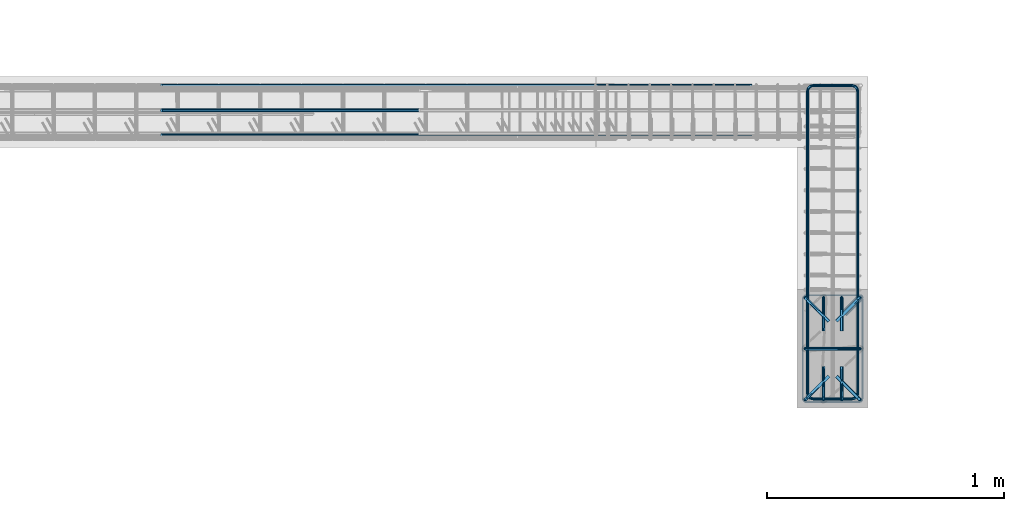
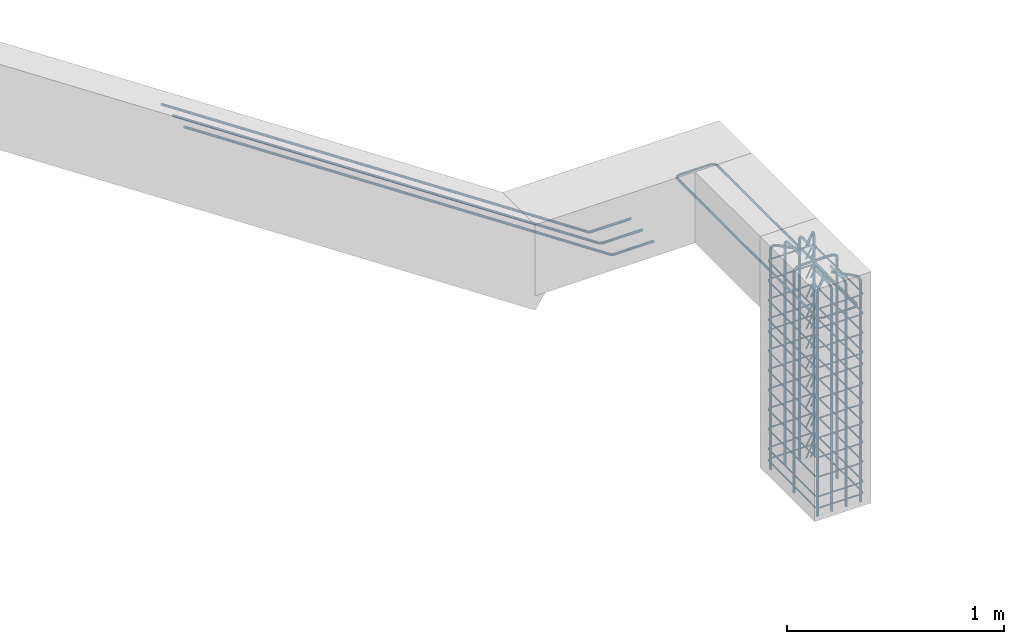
# One storey, part 17 of 24: 4 reinforcing bars.
"""IFC2X3 building model written with IfcOpenShell, lengths in metres."""

from ifc_helpers import new_model, entity, si_unit, direction, frame, origin, place, context, subcontext, project, spatial, shape, source, transform, mapped, element, save


model = new_model("IFC2X3")

# Units and contexts
model_context = context("Model", 3, precision=0.0, world=origin(), true_north=direction((0.0, 1.0)))
plan_context = context("Plan", 3, precision=0.0, world=origin(), true_north=direction((0.0, 1.0)))
body_context = subcontext(model_context, "Body", "Model", "MODEL_VIEW", scale=1.0)
ifc_project = project(units=[si_unit("LENGTHUNIT", "METRE"), si_unit("AREAUNIT", "SQUARE_METRE"), si_unit("VOLUMEUNIT", "CUBIC_METRE"), si_unit("PLANEANGLEUNIT", "RADIAN"), si_unit("THERMODYNAMICTEMPERATUREUNIT", "DEGREE_CELSIUS"), si_unit("FORCEUNIT", "NEWTON"), si_unit("MASSUNIT", "GRAM", prefix="KILO")], contexts=[model_context, plan_context])

# Site, building, storey
placement = place(None, origin())
site = spatial("IfcSite", under=ifc_project, at=placement, Name="Default Site", CompositionType="ELEMENT")
building = spatial("IfcBuilding", under=site, at=placement, Name="Default Building", CompositionType="ELEMENT")
storey_placement = place(placement, frame((0.0, 0.0, 3.3), z_axis=(1.0, 0.0, 0.0), x_axis=(0.0, 0.0, 1.0)))
storey = spatial("IfcBuildingStorey", under=building, at=storey_placement, Name="Piano 2", CompositionType="ELEMENT", Elevation=3.3)

# Reinforcing bars
shared_shape_1 = source(origin(), body_context, None, "AdvancedSweptSolid", [
    entity("IfcSweptDiskSolid", entity("IfcCompositeCurve", [entity("IfcCompositeCurveSegment", "CONTINUOUS", True, entity("IfcPolyline", [entity("IfcCartesianPoint", [0.0, 0.0, 0.0]), entity("IfcCartesianPoint", [0.320339, 0.0, -0.21356]), entity("IfcCartesianPoint", [1.81803, 0.0, -1.21202]), entity("IfcCartesianPoint", [2.266976, 0.0, -1.511317]), entity("IfcCartesianPoint", [2.282508, 0.0, -1.51602]), entity("IfcCartesianPoint", [2.495986, 0.0, -1.51602])]))], False), 0.007, 0.0, 0.0),
])
shared_shape_2 = source(origin(), body_context, None, "MappedRepresentation", [mapped(shared_shape_1, transform((14.164462, 4.902, 2.461196)))])
shared_shape_3 = source(origin(), body_context, None, "AdvancedSweptSolid", [
    entity("IfcSweptDiskSolid", entity("IfcCompositeCurve", [entity("IfcCompositeCurveSegment", "CONTINUOUS", True, entity("IfcPolyline", [entity("IfcCartesianPoint", [0.0, 0.0, 0.0]), entity("IfcCartesianPoint", [0.320339, 0.0, -0.21356]), entity("IfcCartesianPoint", [1.81803, 0.0, -1.21202]), entity("IfcCartesianPoint", [2.266976, 0.0, -1.511317]), entity("IfcCartesianPoint", [2.282508, 0.0, -1.51602]), entity("IfcCartesianPoint", [2.495986, 0.0, -1.51602])]))], False), 0.007, 0.0, 0.0),
])
shared_shape_4 = source(origin(), body_context, None, "MappedRepresentation", [mapped(shared_shape_3, transform((14.164462, 5.007, 2.461196)))])
shared_shape_5 = source(origin(), body_context, None, "AdvancedSweptSolid", [
    entity("IfcSweptDiskSolid", entity("IfcCompositeCurve", [entity("IfcCompositeCurveSegment", "CONTINUOUS", True, entity("IfcPolyline", [entity("IfcCartesianPoint", [0.0, 0.0, 0.0]), entity("IfcCartesianPoint", [0.320339, 0.0, -0.21356]), entity("IfcCartesianPoint", [1.81803, 0.0, -1.21202]), entity("IfcCartesianPoint", [2.266976, 0.0, -1.511317]), entity("IfcCartesianPoint", [2.282508, 0.0, -1.51602]), entity("IfcCartesianPoint", [2.495986, 0.0, -1.51602])]))], False), 0.007, 0.0, 0.0),
])
shared_shape_6 = source(origin(), body_context, None, "MappedRepresentation", [mapped(shared_shape_5, transform((14.164462, 5.112, 2.461196)))])
element("IfcReinforcingBar", 1, at=placement, inside=storey, Name="Arm Superiore; Trave:10 [Piano:2]", BarLength=8.864272, BarRole="MAIN", BarSurface="TEXTURED", NominalDiameter=0.014, shapes=[
    shape(body_context, None, "MappedRepresentation", [mapped(shared_shape_2, transform((0.0, 0.0, 0.0))), mapped(shared_shape_4, transform((0.0, 0.0, 0.0))), mapped(shared_shape_6, transform((0.0, 0.0, 0.0)))]),
])
shared_shape_7 = source(origin(), body_context, None, "AdvancedSweptSolid", [
    entity("IfcSweptDiskSolid", entity("IfcCompositeCurve", [entity("IfcCompositeCurveSegment", "CONTINUOUS", True, entity("IfcPolyline", [entity("IfcCartesianPoint", [0.0, 0.0, 0.0]), entity("IfcCartesianPoint", [-0.096, 0.0, 0.0]), entity("IfcCartesianPoint", [-0.108, 0.003215, 0.0]), entity("IfcCartesianPoint", [-0.116785, 0.012, 0.0]), entity("IfcCartesianPoint", [-0.12, 0.024, 0.0]), entity("IfcCartesianPoint", [-0.12, 0.212, 0.0]), entity("IfcCartesianPoint", [-0.12, 1.212, 0.0]), entity("IfcCartesianPoint", [-0.12, 1.3, 0.0]), entity("IfcCartesianPoint", [-0.116785, 1.312, 0.0]), entity("IfcCartesianPoint", [-0.108, 1.320785, 0.0]), entity("IfcCartesianPoint", [-0.096, 1.324, 0.0]), entity("IfcCartesianPoint", [0.0, 1.324, 0.0])]))], False), 0.006, 0.0, 0.0),
])
shared_shape_8 = source(origin(), body_context, None, "MappedRepresentation", [mapped(shared_shape_7, transform((17.014, 3.788, 1.101)))])
shared_shape_9 = source(origin(), body_context, None, "AdvancedSweptSolid", [
    entity("IfcSweptDiskSolid", entity("IfcCompositeCurve", [entity("IfcCompositeCurveSegment", "CONTINUOUS", True, entity("IfcPolyline", [entity("IfcCartesianPoint", [0.0, 0.0, 0.0]), entity("IfcCartesianPoint", [0.096, 0.0, 0.0]), entity("IfcCartesianPoint", [0.108, 0.003215, 0.0]), entity("IfcCartesianPoint", [0.116785, 0.012, 0.0]), entity("IfcCartesianPoint", [0.12, 0.024, 0.0]), entity("IfcCartesianPoint", [0.12, 0.212, 0.0]), entity("IfcCartesianPoint", [0.12, 1.212, 0.0]), entity("IfcCartesianPoint", [0.12, 1.3, 0.0]), entity("IfcCartesianPoint", [0.116785, 1.312, 0.0]), entity("IfcCartesianPoint", [0.108, 1.320785, 0.0]), entity("IfcCartesianPoint", [0.096, 1.324, 0.0]), entity("IfcCartesianPoint", [0.0, 1.324, 0.0])]))], False), 0.006, 0.0, 0.0),
])
shared_shape_10 = source(origin(), body_context, None, "MappedRepresentation", [mapped(shared_shape_9, transform((16.986, 3.788, 1.101)))])
element("IfcReinforcingBar", 2, at=placement, inside=storey, Name="Arm Generica; Trave:12 [Piano:2]", BarLength=3.08508, BarRole="NOTDEFINED", BarSurface="TEXTURED", NominalDiameter=0.012, shapes=[
    shape(body_context, None, "MappedRepresentation", [mapped(shared_shape_8, transform((0.0, 0.0, 0.0))), mapped(shared_shape_10, transform((0.0, 0.0, 0.0)))]),
])
shared_shape_11 = source(origin(), body_context, None, "AdvancedSweptSolid", [
    entity("IfcSweptDiskSolid", entity("IfcCompositeCurve", [entity("IfcCompositeCurveSegment", "CONTINUOUS", True, entity("IfcPolyline", [entity("IfcCartesianPoint", [0.0, 0.0, 0.0]), entity("IfcCartesianPoint", [0.066025, 0.066025, -0.000531]), entity("IfcCartesianPoint", [0.070711, 0.077338, -0.000606]), entity("IfcCartesianPoint", [0.069514, 0.081802, -0.000638]), entity("IfcCartesianPoint", [0.066246, 0.085071, -0.000675]), entity("IfcCartesianPoint", [0.061782, 0.086267, -0.000707]), entity("IfcCartesianPoint", [-0.16529, 0.086267, -0.001997]), entity("IfcCartesianPoint", [-0.17329, 0.084124, -0.002055]), entity("IfcCartesianPoint", [-0.179146, 0.078267, -0.002122]), entity("IfcCartesianPoint", [-0.181289, 0.070268, -0.002179]), entity("IfcCartesianPoint", [-0.181289, -0.349734, -0.004566]), entity("IfcCartesianPoint", [-0.179146, -0.357733, -0.004623]), entity("IfcCartesianPoint", [-0.17329, -0.363589, -0.00469]), entity("IfcCartesianPoint", [-0.16529, -0.365733, -0.004747]), entity("IfcCartesianPoint", [0.054711, -0.365733, -0.005997]), entity("IfcCartesianPoint", [0.062711, -0.363589, -0.006055]), entity("IfcCartesianPoint", [0.068567, -0.357733, -0.006122]), entity("IfcCartesianPoint", [0.070711, -0.349734, -0.006179]), entity("IfcCartesianPoint", [0.070711, 0.070711, -0.008568]), entity("IfcCartesianPoint", [0.068627, 0.078489, -0.008624]), entity("IfcCartesianPoint", [0.062933, 0.084183, -0.008689]), entity("IfcCartesianPoint", [0.055154, 0.086267, -0.008745]), entity("IfcCartesianPoint", [-0.015556, 0.015556, -0.009313])]))], False), 0.004, 0.0, 0.0),
])
shared_shape_12 = source(origin(), body_context, None, "AdvancedSweptSolid", [
    entity("IfcSweptDiskSolid", entity("IfcCompositeCurve", [entity("IfcCompositeCurveSegment", "CONTINUOUS", True, entity("IfcPolyline", [entity("IfcCartesianPoint", [0.0, 0.0, 0.0]), entity("IfcCartesianPoint", [0.066025, 0.066025, -0.000531]), entity("IfcCartesianPoint", [0.070711, 0.077338, -0.000606]), entity("IfcCartesianPoint", [0.069514, 0.081802, -0.000638]), entity("IfcCartesianPoint", [0.066246, 0.085071, -0.000675]), entity("IfcCartesianPoint", [0.061782, 0.086267, -0.000707]), entity("IfcCartesianPoint", [-0.16529, 0.086267, -0.001997]), entity("IfcCartesianPoint", [-0.17329, 0.084124, -0.002055]), entity("IfcCartesianPoint", [-0.179146, 0.078267, -0.002122]), entity("IfcCartesianPoint", [-0.181289, 0.070268, -0.002179]), entity("IfcCartesianPoint", [-0.181289, -0.349734, -0.004566]), entity("IfcCartesianPoint", [-0.179146, -0.357733, -0.004623]), entity("IfcCartesianPoint", [-0.17329, -0.363589, -0.00469]), entity("IfcCartesianPoint", [-0.16529, -0.365733, -0.004747]), entity("IfcCartesianPoint", [0.054711, -0.365733, -0.005997]), entity("IfcCartesianPoint", [0.062711, -0.363589, -0.006055]), entity("IfcCartesianPoint", [0.068567, -0.357733, -0.006122]), entity("IfcCartesianPoint", [0.070711, -0.349734, -0.006179]), entity("IfcCartesianPoint", [0.070711, 0.070711, -0.008568]), entity("IfcCartesianPoint", [0.068627, 0.078489, -0.008624]), entity("IfcCartesianPoint", [0.062933, 0.084183, -0.008689]), entity("IfcCartesianPoint", [0.055154, 0.086267, -0.008745]), entity("IfcCartesianPoint", [-0.015556, 0.015556, -0.009313])]))], False), 0.004, 0.0, 0.0),
])
shared_shape_13 = source(origin(), body_context, None, "AdvancedSweptSolid", [
    entity("IfcSweptDiskSolid", entity("IfcCompositeCurve", [entity("IfcCompositeCurveSegment", "CONTINUOUS", True, entity("IfcPolyline", [entity("IfcCartesianPoint", [0.0, 0.0, 0.0]), entity("IfcCartesianPoint", [0.066025, 0.066025, -0.000531]), entity("IfcCartesianPoint", [0.070711, 0.077338, -0.000606]), entity("IfcCartesianPoint", [0.069514, 0.081802, -0.000638]), entity("IfcCartesianPoint", [0.066246, 0.085071, -0.000675]), entity("IfcCartesianPoint", [0.061782, 0.086267, -0.000707]), entity("IfcCartesianPoint", [-0.16529, 0.086267, -0.001997]), entity("IfcCartesianPoint", [-0.17329, 0.084124, -0.002055]), entity("IfcCartesianPoint", [-0.179146, 0.078267, -0.002122]), entity("IfcCartesianPoint", [-0.181289, 0.070268, -0.002179]), entity("IfcCartesianPoint", [-0.181289, -0.349734, -0.004566]), entity("IfcCartesianPoint", [-0.179146, -0.357733, -0.004623]), entity("IfcCartesianPoint", [-0.17329, -0.363589, -0.00469]), entity("IfcCartesianPoint", [-0.16529, -0.365733, -0.004747]), entity("IfcCartesianPoint", [0.054711, -0.365733, -0.005997]), entity("IfcCartesianPoint", [0.062711, -0.363589, -0.006055]), entity("IfcCartesianPoint", [0.068567, -0.357733, -0.006122]), entity("IfcCartesianPoint", [0.070711, -0.349734, -0.006179]), entity("IfcCartesianPoint", [0.070711, 0.070711, -0.008568]), entity("IfcCartesianPoint", [0.068627, 0.078489, -0.008624]), entity("IfcCartesianPoint", [0.062933, 0.084183, -0.008689]), entity("IfcCartesianPoint", [0.055154, 0.086267, -0.008745]), entity("IfcCartesianPoint", [-0.015556, 0.015556, -0.009313])]))], False), 0.004, 0.0, 0.0),
])
shared_shape_14 = source(origin(), body_context, None, "AdvancedSweptSolid", [
    entity("IfcSweptDiskSolid", entity("IfcCompositeCurve", [entity("IfcCompositeCurveSegment", "CONTINUOUS", True, entity("IfcPolyline", [entity("IfcCartesianPoint", [0.0, 0.0, 0.0]), entity("IfcCartesianPoint", [0.066025, 0.066025, -0.000531]), entity("IfcCartesianPoint", [0.070711, 0.077338, -0.000606]), entity("IfcCartesianPoint", [0.069514, 0.081802, -0.000638]), entity("IfcCartesianPoint", [0.066246, 0.085071, -0.000675]), entity("IfcCartesianPoint", [0.061782, 0.086267, -0.000707]), entity("IfcCartesianPoint", [-0.16529, 0.086267, -0.001997]), entity("IfcCartesianPoint", [-0.17329, 0.084124, -0.002055]), entity("IfcCartesianPoint", [-0.179146, 0.078267, -0.002122]), entity("IfcCartesianPoint", [-0.181289, 0.070268, -0.002179]), entity("IfcCartesianPoint", [-0.181289, -0.349734, -0.004566]), entity("IfcCartesianPoint", [-0.179146, -0.357733, -0.004623]), entity("IfcCartesianPoint", [-0.17329, -0.363589, -0.00469]), entity("IfcCartesianPoint", [-0.16529, -0.365733, -0.004747]), entity("IfcCartesianPoint", [0.054711, -0.365733, -0.005997]), entity("IfcCartesianPoint", [0.062711, -0.363589, -0.006055]), entity("IfcCartesianPoint", [0.068567, -0.357733, -0.006122]), entity("IfcCartesianPoint", [0.070711, -0.349734, -0.006179]), entity("IfcCartesianPoint", [0.070711, 0.070711, -0.008568]), entity("IfcCartesianPoint", [0.068627, 0.078489, -0.008624]), entity("IfcCartesianPoint", [0.062933, 0.084183, -0.008689]), entity("IfcCartesianPoint", [0.055154, 0.086267, -0.008745]), entity("IfcCartesianPoint", [-0.015556, 0.015556, -0.009313])]))], False), 0.004, 0.0, 0.0),
])
shared_shape_15 = source(origin(), body_context, None, "AdvancedSweptSolid", [
    entity("IfcSweptDiskSolid", entity("IfcCompositeCurve", [entity("IfcCompositeCurveSegment", "CONTINUOUS", True, entity("IfcPolyline", [entity("IfcCartesianPoint", [0.0, 0.0, 0.0]), entity("IfcCartesianPoint", [0.066025, 0.066025, -0.000531]), entity("IfcCartesianPoint", [0.070711, 0.077338, -0.000606]), entity("IfcCartesianPoint", [0.069514, 0.081802, -0.000638]), entity("IfcCartesianPoint", [0.066246, 0.085071, -0.000675]), entity("IfcCartesianPoint", [0.061782, 0.086267, -0.000707]), entity("IfcCartesianPoint", [-0.16529, 0.086267, -0.001997]), entity("IfcCartesianPoint", [-0.17329, 0.084124, -0.002055]), entity("IfcCartesianPoint", [-0.179146, 0.078267, -0.002122]), entity("IfcCartesianPoint", [-0.181289, 0.070268, -0.002179]), entity("IfcCartesianPoint", [-0.181289, -0.349734, -0.004566]), entity("IfcCartesianPoint", [-0.179146, -0.357733, -0.004623]), entity("IfcCartesianPoint", [-0.17329, -0.363589, -0.00469]), entity("IfcCartesianPoint", [-0.16529, -0.365733, -0.004747]), entity("IfcCartesianPoint", [0.054711, -0.365733, -0.005997]), entity("IfcCartesianPoint", [0.062711, -0.363589, -0.006055]), entity("IfcCartesianPoint", [0.068567, -0.357733, -0.006122]), entity("IfcCartesianPoint", [0.070711, -0.349734, -0.006179]), entity("IfcCartesianPoint", [0.070711, 0.070711, -0.008568]), entity("IfcCartesianPoint", [0.068627, 0.078489, -0.008624]), entity("IfcCartesianPoint", [0.062933, 0.084183, -0.008689]), entity("IfcCartesianPoint", [0.055154, 0.086267, -0.008745]), entity("IfcCartesianPoint", [-0.015556, 0.015556, -0.009313])]))], False), 0.004, 0.0, 0.0),
])
shared_shape_16 = source(origin(), body_context, None, "AdvancedSweptSolid", [
    entity("IfcSweptDiskSolid", entity("IfcCompositeCurve", [entity("IfcCompositeCurveSegment", "CONTINUOUS", True, entity("IfcPolyline", [entity("IfcCartesianPoint", [0.0, 0.0, 0.0]), entity("IfcCartesianPoint", [0.066025, 0.066025, -0.000531]), entity("IfcCartesianPoint", [0.070711, 0.077338, -0.000606]), entity("IfcCartesianPoint", [0.069514, 0.081802, -0.000638]), entity("IfcCartesianPoint", [0.066246, 0.085071, -0.000675]), entity("IfcCartesianPoint", [0.061782, 0.086267, -0.000707]), entity("IfcCartesianPoint", [-0.16529, 0.086267, -0.001997]), entity("IfcCartesianPoint", [-0.17329, 0.084124, -0.002055]), entity("IfcCartesianPoint", [-0.179146, 0.078267, -0.002122]), entity("IfcCartesianPoint", [-0.181289, 0.070268, -0.002179]), entity("IfcCartesianPoint", [-0.181289, -0.349734, -0.004566]), entity("IfcCartesianPoint", [-0.179146, -0.357733, -0.004623]), entity("IfcCartesianPoint", [-0.17329, -0.363589, -0.00469]), entity("IfcCartesianPoint", [-0.16529, -0.365733, -0.004747]), entity("IfcCartesianPoint", [0.054711, -0.365733, -0.005997]), entity("IfcCartesianPoint", [0.062711, -0.363589, -0.006055]), entity("IfcCartesianPoint", [0.068567, -0.357733, -0.006122]), entity("IfcCartesianPoint", [0.070711, -0.349734, -0.006179]), entity("IfcCartesianPoint", [0.070711, 0.070711, -0.008568]), entity("IfcCartesianPoint", [0.068627, 0.078489, -0.008624]), entity("IfcCartesianPoint", [0.062933, 0.084183, -0.008689]), entity("IfcCartesianPoint", [0.055154, 0.086267, -0.008745]), entity("IfcCartesianPoint", [-0.015556, 0.015556, -0.009313])]))], False), 0.004, 0.0, 0.0),
])
shared_shape_17 = source(origin(), body_context, None, "AdvancedSweptSolid", [
    entity("IfcSweptDiskSolid", entity("IfcCompositeCurve", [entity("IfcCompositeCurveSegment", "CONTINUOUS", True, entity("IfcPolyline", [entity("IfcCartesianPoint", [0.0, 0.0, 0.0]), entity("IfcCartesianPoint", [0.066025, 0.066025, -0.000531]), entity("IfcCartesianPoint", [0.070711, 0.077338, -0.000606]), entity("IfcCartesianPoint", [0.069514, 0.081802, -0.000638]), entity("IfcCartesianPoint", [0.066246, 0.085071, -0.000675]), entity("IfcCartesianPoint", [0.061782, 0.086267, -0.000707]), entity("IfcCartesianPoint", [-0.16529, 0.086267, -0.001997]), entity("IfcCartesianPoint", [-0.17329, 0.084124, -0.002055]), entity("IfcCartesianPoint", [-0.179146, 0.078267, -0.002122]), entity("IfcCartesianPoint", [-0.181289, 0.070268, -0.002179]), entity("IfcCartesianPoint", [-0.181289, -0.349734, -0.004566]), entity("IfcCartesianPoint", [-0.179146, -0.357733, -0.004623]), entity("IfcCartesianPoint", [-0.17329, -0.363589, -0.00469]), entity("IfcCartesianPoint", [-0.16529, -0.365733, -0.004747]), entity("IfcCartesianPoint", [0.054711, -0.365733, -0.005997]), entity("IfcCartesianPoint", [0.062711, -0.363589, -0.006055]), entity("IfcCartesianPoint", [0.068567, -0.357733, -0.006122]), entity("IfcCartesianPoint", [0.070711, -0.349734, -0.006179]), entity("IfcCartesianPoint", [0.070711, 0.070711, -0.008568]), entity("IfcCartesianPoint", [0.068627, 0.078489, -0.008624]), entity("IfcCartesianPoint", [0.062933, 0.084183, -0.008689]), entity("IfcCartesianPoint", [0.055154, 0.086267, -0.008745]), entity("IfcCartesianPoint", [-0.015556, 0.015556, -0.009313])]))], False), 0.004, 0.0, 0.0),
])
shared_shape_18 = source(origin(), body_context, None, "AdvancedSweptSolid", [
    entity("IfcSweptDiskSolid", entity("IfcCompositeCurve", [entity("IfcCompositeCurveSegment", "CONTINUOUS", True, entity("IfcPolyline", [entity("IfcCartesianPoint", [0.0, 0.0, 0.0]), entity("IfcCartesianPoint", [0.066025, 0.066025, -0.000531]), entity("IfcCartesianPoint", [0.070711, 0.077338, -0.000606]), entity("IfcCartesianPoint", [0.069514, 0.081802, -0.000638]), entity("IfcCartesianPoint", [0.066246, 0.085071, -0.000675]), entity("IfcCartesianPoint", [0.061782, 0.086267, -0.000707]), entity("IfcCartesianPoint", [-0.16529, 0.086267, -0.001997]), entity("IfcCartesianPoint", [-0.17329, 0.084124, -0.002055]), entity("IfcCartesianPoint", [-0.179146, 0.078267, -0.002122]), entity("IfcCartesianPoint", [-0.181289, 0.070268, -0.002179]), entity("IfcCartesianPoint", [-0.181289, -0.349734, -0.004566]), entity("IfcCartesianPoint", [-0.179146, -0.357733, -0.004623]), entity("IfcCartesianPoint", [-0.17329, -0.363589, -0.00469]), entity("IfcCartesianPoint", [-0.16529, -0.365733, -0.004747]), entity("IfcCartesianPoint", [0.054711, -0.365733, -0.005997]), entity("IfcCartesianPoint", [0.062711, -0.363589, -0.006055]), entity("IfcCartesianPoint", [0.068567, -0.357733, -0.006122]), entity("IfcCartesianPoint", [0.070711, -0.349734, -0.006179]), entity("IfcCartesianPoint", [0.070711, 0.070711, -0.008568]), entity("IfcCartesianPoint", [0.068627, 0.078489, -0.008624]), entity("IfcCartesianPoint", [0.062933, 0.084183, -0.008689]), entity("IfcCartesianPoint", [0.055154, 0.086267, -0.008745]), entity("IfcCartesianPoint", [-0.015556, 0.015556, -0.009313])]))], False), 0.004, 0.0, 0.0),
])
shared_shape_19 = source(origin(), body_context, None, "AdvancedSweptSolid", [
    entity("IfcSweptDiskSolid", entity("IfcCompositeCurve", [entity("IfcCompositeCurveSegment", "CONTINUOUS", True, entity("IfcPolyline", [entity("IfcCartesianPoint", [0.0, 0.0, 0.0]), entity("IfcCartesianPoint", [0.066025, 0.066025, -0.000531]), entity("IfcCartesianPoint", [0.070711, 0.077338, -0.000606]), entity("IfcCartesianPoint", [0.069514, 0.081802, -0.000638]), entity("IfcCartesianPoint", [0.066246, 0.085071, -0.000675]), entity("IfcCartesianPoint", [0.061782, 0.086267, -0.000707]), entity("IfcCartesianPoint", [-0.16529, 0.086267, -0.001997]), entity("IfcCartesianPoint", [-0.17329, 0.084124, -0.002055]), entity("IfcCartesianPoint", [-0.179146, 0.078267, -0.002122]), entity("IfcCartesianPoint", [-0.181289, 0.070268, -0.002179]), entity("IfcCartesianPoint", [-0.181289, -0.349734, -0.004566]), entity("IfcCartesianPoint", [-0.179146, -0.357733, -0.004623]), entity("IfcCartesianPoint", [-0.17329, -0.363589, -0.00469]), entity("IfcCartesianPoint", [-0.16529, -0.365733, -0.004747]), entity("IfcCartesianPoint", [0.054711, -0.365733, -0.005997]), entity("IfcCartesianPoint", [0.062711, -0.363589, -0.006055]), entity("IfcCartesianPoint", [0.068567, -0.357733, -0.006122]), entity("IfcCartesianPoint", [0.070711, -0.349734, -0.006179]), entity("IfcCartesianPoint", [0.070711, 0.070711, -0.008568]), entity("IfcCartesianPoint", [0.068627, 0.078489, -0.008624]), entity("IfcCartesianPoint", [0.062933, 0.084183, -0.008689]), entity("IfcCartesianPoint", [0.055154, 0.086267, -0.008745]), entity("IfcCartesianPoint", [-0.015556, 0.015556, -0.009313])]))], False), 0.004, 0.0, 0.0),
])
shared_shape_20 = source(origin(), body_context, None, "AdvancedSweptSolid", [
    entity("IfcSweptDiskSolid", entity("IfcCompositeCurve", [entity("IfcCompositeCurveSegment", "CONTINUOUS", True, entity("IfcPolyline", [entity("IfcCartesianPoint", [0.0, 0.0, 0.0]), entity("IfcCartesianPoint", [0.066025, 0.066025, -0.000531]), entity("IfcCartesianPoint", [0.070711, 0.077338, -0.000606]), entity("IfcCartesianPoint", [0.069514, 0.081802, -0.000638]), entity("IfcCartesianPoint", [0.066246, 0.085071, -0.000675]), entity("IfcCartesianPoint", [0.061782, 0.086267, -0.000707]), entity("IfcCartesianPoint", [-0.16529, 0.086267, -0.001997]), entity("IfcCartesianPoint", [-0.17329, 0.084124, -0.002055]), entity("IfcCartesianPoint", [-0.179146, 0.078267, -0.002122]), entity("IfcCartesianPoint", [-0.181289, 0.070268, -0.002179]), entity("IfcCartesianPoint", [-0.181289, -0.349734, -0.004566]), entity("IfcCartesianPoint", [-0.179146, -0.357733, -0.004623]), entity("IfcCartesianPoint", [-0.17329, -0.363589, -0.00469]), entity("IfcCartesianPoint", [-0.16529, -0.365733, -0.004747]), entity("IfcCartesianPoint", [0.054711, -0.365733, -0.005997]), entity("IfcCartesianPoint", [0.062711, -0.363589, -0.006055]), entity("IfcCartesianPoint", [0.068567, -0.357733, -0.006122]), entity("IfcCartesianPoint", [0.070711, -0.349734, -0.006179]), entity("IfcCartesianPoint", [0.070711, 0.070711, -0.008568]), entity("IfcCartesianPoint", [0.068627, 0.078489, -0.008624]), entity("IfcCartesianPoint", [0.062933, 0.084183, -0.008689]), entity("IfcCartesianPoint", [0.055154, 0.086267, -0.008745]), entity("IfcCartesianPoint", [-0.015556, 0.015556, -0.009313])]))], False), 0.004, 0.0, 0.0),
])
shared_shape_21 = source(origin(), body_context, None, "AdvancedSweptSolid", [
    entity("IfcSweptDiskSolid", entity("IfcCompositeCurve", [entity("IfcCompositeCurveSegment", "CONTINUOUS", True, entity("IfcPolyline", [entity("IfcCartesianPoint", [0.0, 0.0, 0.0]), entity("IfcCartesianPoint", [0.066025, 0.066025, -0.000531]), entity("IfcCartesianPoint", [0.070711, 0.077338, -0.000606]), entity("IfcCartesianPoint", [0.069514, 0.081802, -0.000638]), entity("IfcCartesianPoint", [0.066246, 0.085071, -0.000675]), entity("IfcCartesianPoint", [0.061782, 0.086267, -0.000707]), entity("IfcCartesianPoint", [-0.16529, 0.086267, -0.001997]), entity("IfcCartesianPoint", [-0.17329, 0.084124, -0.002055]), entity("IfcCartesianPoint", [-0.179146, 0.078267, -0.002122]), entity("IfcCartesianPoint", [-0.181289, 0.070268, -0.002179]), entity("IfcCartesianPoint", [-0.181289, -0.349734, -0.004566]), entity("IfcCartesianPoint", [-0.179146, -0.357733, -0.004623]), entity("IfcCartesianPoint", [-0.17329, -0.363589, -0.00469]), entity("IfcCartesianPoint", [-0.16529, -0.365733, -0.004747]), entity("IfcCartesianPoint", [0.054711, -0.365733, -0.005997]), entity("IfcCartesianPoint", [0.062711, -0.363589, -0.006055]), entity("IfcCartesianPoint", [0.068567, -0.357733, -0.006122]), entity("IfcCartesianPoint", [0.070711, -0.349734, -0.006179]), entity("IfcCartesianPoint", [0.070711, 0.070711, -0.008568]), entity("IfcCartesianPoint", [0.068627, 0.078489, -0.008624]), entity("IfcCartesianPoint", [0.062933, 0.084183, -0.008689]), entity("IfcCartesianPoint", [0.055154, 0.086267, -0.008745]), entity("IfcCartesianPoint", [-0.015556, 0.015556, -0.009313])]))], False), 0.004, 0.0, 0.0),
])
shared_shape_22 = source(origin(), body_context, None, "AdvancedSweptSolid", [
    entity("IfcSweptDiskSolid", entity("IfcCompositeCurve", [entity("IfcCompositeCurveSegment", "CONTINUOUS", True, entity("IfcPolyline", [entity("IfcCartesianPoint", [0.0, 0.0, 0.0]), entity("IfcCartesianPoint", [0.066025, 0.066025, -0.000531]), entity("IfcCartesianPoint", [0.070711, 0.077338, -0.000606]), entity("IfcCartesianPoint", [0.069514, 0.081802, -0.000638]), entity("IfcCartesianPoint", [0.066246, 0.085071, -0.000675]), entity("IfcCartesianPoint", [0.061782, 0.086267, -0.000707]), entity("IfcCartesianPoint", [-0.16529, 0.086267, -0.001997]), entity("IfcCartesianPoint", [-0.17329, 0.084124, -0.002055]), entity("IfcCartesianPoint", [-0.179146, 0.078267, -0.002122]), entity("IfcCartesianPoint", [-0.181289, 0.070268, -0.002179]), entity("IfcCartesianPoint", [-0.181289, -0.349734, -0.004566]), entity("IfcCartesianPoint", [-0.179146, -0.357733, -0.004623]), entity("IfcCartesianPoint", [-0.17329, -0.363589, -0.00469]), entity("IfcCartesianPoint", [-0.16529, -0.365733, -0.004747]), entity("IfcCartesianPoint", [0.054711, -0.365733, -0.005997]), entity("IfcCartesianPoint", [0.062711, -0.363589, -0.006055]), entity("IfcCartesianPoint", [0.068567, -0.357733, -0.006122]), entity("IfcCartesianPoint", [0.070711, -0.349734, -0.006179]), entity("IfcCartesianPoint", [0.070711, 0.070711, -0.008568]), entity("IfcCartesianPoint", [0.068627, 0.078489, -0.008624]), entity("IfcCartesianPoint", [0.062933, 0.084183, -0.008689]), entity("IfcCartesianPoint", [0.055154, 0.086267, -0.008745]), entity("IfcCartesianPoint", [-0.015556, 0.015556, -0.009313])]))], False), 0.004, 0.0, 0.0),
])
element("IfcReinforcingBar", 3, at=placement, inside=storey, Name="Arm Staffa; Pilastro:29 [Piano:2]", BarLength=19.66967, BarRole="SHEAR", BarSurface="TEXTURED", NominalDiameter=0.008, shapes=[
    shape(body_context, None, "MappedRepresentation", [mapped(shared_shape_11, transform((17.055289, 4.139733, 0.955))), mapped(shared_shape_12, transform((17.055289, 4.139733, 1.065))), mapped(shared_shape_13, transform((17.055289, 4.139733, 1.175))), mapped(shared_shape_14, transform((17.055289, 4.139733, 0.845))), mapped(shared_shape_15, transform((17.055289, 4.139733, 0.78))), mapped(shared_shape_16, transform((17.055289, 4.139733, 0.67))), mapped(shared_shape_17, transform((17.055289, 4.139733, 0.56))), mapped(shared_shape_18, transform((17.055289, 4.139733, 0.45))), mapped(shared_shape_19, transform((17.055289, 4.139733, 0.34))), mapped(shared_shape_20, transform((17.055289, 4.139733, 0.23))), mapped(shared_shape_21, transform((17.055289, 4.139733, 0.12))), mapped(shared_shape_22, transform((17.055289, 4.139733, 0.055)))]),
])
shared_shape_23 = source(origin(), body_context, None, "AdvancedSweptSolid", [
    entity("IfcSweptDiskSolid", entity("IfcCompositeCurve", [entity("IfcCompositeCurveSegment", "CONTINUOUS", True, entity("IfcPolyline", [entity("IfcCartesianPoint", [0.0, 0.0, 0.0]), entity("IfcCartesianPoint", [0.0, 0.0, 1.237]), entity("IfcCartesianPoint", [0.002653, 0.002653, 1.251]), entity("IfcCartesianPoint", [0.009899, 0.009899, 1.261249]), entity("IfcCartesianPoint", [0.019799, 0.019799, 1.265]), entity("IfcCartesianPoint", [0.098995, 0.098995, 1.265])]))], False), 0.007, 0.0, 0.0),
])
shared_shape_24 = source(origin(), body_context, None, "MappedRepresentation", [mapped(shared_shape_23, transform((16.885, 3.785, 0.0)))])
shared_shape_25 = source(origin(), body_context, None, "AdvancedSweptSolid", [
    entity("IfcSweptDiskSolid", entity("IfcCompositeCurve", [entity("IfcCompositeCurveSegment", "CONTINUOUS", True, entity("IfcPolyline", [entity("IfcCartesianPoint", [0.0, 0.0, 0.0]), entity("IfcCartesianPoint", [0.0, 0.0, 1.237]), entity("IfcCartesianPoint", [-0.002653, 0.002653, 1.251]), entity("IfcCartesianPoint", [-0.009899, 0.009899, 1.261249]), entity("IfcCartesianPoint", [-0.019799, 0.019799, 1.265]), entity("IfcCartesianPoint", [-0.098995, 0.098995, 1.265])]))], False), 0.007, 0.0, 0.0),
])
shared_shape_26 = source(origin(), body_context, None, "MappedRepresentation", [mapped(shared_shape_25, transform((17.115, 3.785, 0.0)))])
shared_shape_27 = source(origin(), body_context, None, "AdvancedSweptSolid", [
    entity("IfcSweptDiskSolid", entity("IfcCompositeCurve", [entity("IfcCompositeCurveSegment", "CONTINUOUS", True, entity("IfcPolyline", [entity("IfcCartesianPoint", [0.0, 0.0, 0.0]), entity("IfcCartesianPoint", [0.0, 0.0, 1.237]), entity("IfcCartesianPoint", [-0.002653, -0.002653, 1.251]), entity("IfcCartesianPoint", [-0.009899, -0.009899, 1.261249]), entity("IfcCartesianPoint", [-0.019799, -0.019799, 1.265]), entity("IfcCartesianPoint", [-0.098995, -0.098995, 1.265])]))], False), 0.007, 0.0, 0.0),
])
shared_shape_28 = source(origin(), body_context, None, "MappedRepresentation", [mapped(shared_shape_27, transform((17.115, 4.215, 0.0)))])
shared_shape_29 = source(origin(), body_context, None, "AdvancedSweptSolid", [
    entity("IfcSweptDiskSolid", entity("IfcCompositeCurve", [entity("IfcCompositeCurveSegment", "CONTINUOUS", True, entity("IfcPolyline", [entity("IfcCartesianPoint", [0.0, 0.0, 0.0]), entity("IfcCartesianPoint", [0.0, 0.0, 1.237]), entity("IfcCartesianPoint", [0.002653, -0.002653, 1.251]), entity("IfcCartesianPoint", [0.009899, -0.009899, 1.261249]), entity("IfcCartesianPoint", [0.019799, -0.019799, 1.265]), entity("IfcCartesianPoint", [0.098995, -0.098995, 1.265])]))], False), 0.007, 0.0, 0.0),
])
shared_shape_30 = source(origin(), body_context, None, "MappedRepresentation", [mapped(shared_shape_29, transform((16.885, 4.215, 0.0)))])
shared_shape_31 = source(origin(), body_context, None, "AdvancedSweptSolid", [
    entity("IfcSweptDiskSolid", entity("IfcCompositeCurve", [entity("IfcCompositeCurveSegment", "CONTINUOUS", True, entity("IfcPolyline", [entity("IfcCartesianPoint", [0.0, 0.0, 0.0]), entity("IfcCartesianPoint", [0.0, 0.0, 1.237]), entity("IfcCartesianPoint", [0.0, 0.003751, 1.251]), entity("IfcCartesianPoint", [0.0, 0.014, 1.261249]), entity("IfcCartesianPoint", [0.0, 0.028, 1.265]), entity("IfcCartesianPoint", [0.0, 0.14, 1.265])]))], False), 0.007, 0.0, 0.0),
])
shared_shape_32 = source(origin(), body_context, None, "MappedRepresentation", [mapped(shared_shape_31, transform((16.961667, 3.785, 0.0)))])
shared_shape_33 = source(origin(), body_context, None, "AdvancedSweptSolid", [
    entity("IfcSweptDiskSolid", entity("IfcCompositeCurve", [entity("IfcCompositeCurveSegment", "CONTINUOUS", True, entity("IfcPolyline", [entity("IfcCartesianPoint", [0.0, 0.0, 0.0]), entity("IfcCartesianPoint", [0.0, 0.0, 1.237]), entity("IfcCartesianPoint", [0.0, 0.003751, 1.251]), entity("IfcCartesianPoint", [0.0, 0.014, 1.261249]), entity("IfcCartesianPoint", [0.0, 0.028, 1.265]), entity("IfcCartesianPoint", [0.0, 0.14, 1.265])]))], False), 0.007, 0.0, 0.0),
])
shared_shape_34 = source(origin(), body_context, None, "MappedRepresentation", [mapped(shared_shape_33, transform((17.038333, 3.785, 0.0)))])
shared_shape_35 = source(origin(), body_context, None, "AdvancedSweptSolid", [
    entity("IfcSweptDiskSolid", entity("IfcCompositeCurve", [entity("IfcCompositeCurveSegment", "CONTINUOUS", True, entity("IfcPolyline", [entity("IfcCartesianPoint", [0.0, 0.0, 0.0]), entity("IfcCartesianPoint", [0.0, 0.0, 1.237]), entity("IfcCartesianPoint", [-0.003751, 0.0, 1.251]), entity("IfcCartesianPoint", [-0.014, 0.0, 1.261249]), entity("IfcCartesianPoint", [-0.028, 0.0, 1.265]), entity("IfcCartesianPoint", [-0.14, 0.0, 1.265])]))], False), 0.007, 0.0, 0.0),
])
shared_shape_36 = source(origin(), body_context, None, "MappedRepresentation", [mapped(shared_shape_35, transform((17.115, 4.0, 0.0)))])
shared_shape_37 = source(origin(), body_context, None, "AdvancedSweptSolid", [
    entity("IfcSweptDiskSolid", entity("IfcCompositeCurve", [entity("IfcCompositeCurveSegment", "CONTINUOUS", True, entity("IfcPolyline", [entity("IfcCartesianPoint", [0.0, 0.0, 0.0]), entity("IfcCartesianPoint", [0.0, 0.0, 1.237]), entity("IfcCartesianPoint", [0.0, -0.003751, 1.251]), entity("IfcCartesianPoint", [0.0, -0.014, 1.261249]), entity("IfcCartesianPoint", [0.0, -0.028, 1.265]), entity("IfcCartesianPoint", [0.0, -0.14, 1.265])]))], False), 0.007, 0.0, 0.0),
])
shared_shape_38 = source(origin(), body_context, None, "MappedRepresentation", [mapped(shared_shape_37, transform((17.038333, 4.215, 0.0)))])
shared_shape_39 = source(origin(), body_context, None, "AdvancedSweptSolid", [
    entity("IfcSweptDiskSolid", entity("IfcCompositeCurve", [entity("IfcCompositeCurveSegment", "CONTINUOUS", True, entity("IfcPolyline", [entity("IfcCartesianPoint", [0.0, 0.0, 0.0]), entity("IfcCartesianPoint", [0.0, 0.0, 1.237]), entity("IfcCartesianPoint", [0.0, -0.003751, 1.251]), entity("IfcCartesianPoint", [0.0, -0.014, 1.261249]), entity("IfcCartesianPoint", [0.0, -0.028, 1.265]), entity("IfcCartesianPoint", [0.0, -0.14, 1.265])]))], False), 0.007, 0.0, 0.0),
])
shared_shape_40 = source(origin(), body_context, None, "MappedRepresentation", [mapped(shared_shape_39, transform((16.961667, 4.215, 0.0)))])
shared_shape_41 = source(origin(), body_context, None, "AdvancedSweptSolid", [
    entity("IfcSweptDiskSolid", entity("IfcCompositeCurve", [entity("IfcCompositeCurveSegment", "CONTINUOUS", True, entity("IfcPolyline", [entity("IfcCartesianPoint", [0.0, 0.0, 0.0]), entity("IfcCartesianPoint", [0.0, 0.0, 1.237]), entity("IfcCartesianPoint", [0.003751, 0.0, 1.251]), entity("IfcCartesianPoint", [0.014, 0.0, 1.261249]), entity("IfcCartesianPoint", [0.028, 0.0, 1.265]), entity("IfcCartesianPoint", [0.14, 0.0, 1.265])]))], False), 0.007, 0.0, 0.0),
])
shared_shape_42 = source(origin(), body_context, None, "MappedRepresentation", [mapped(shared_shape_41, transform((16.885, 4.0, 0.0)))])
element("IfcReinforcingBar", 4, at=placement, inside=storey, Name="Arm Principale; Pilastro:29 [Piano:2]", BarLength=14.05, BarRole="MAIN", BarSurface="TEXTURED", NominalDiameter=0.014, shapes=[
    shape(body_context, None, "MappedRepresentation", [mapped(shared_shape_24, transform((0.0, 0.0, 0.0))), mapped(shared_shape_26, transform((0.0, 0.0, 0.0))), mapped(shared_shape_28, transform((0.0, 0.0, 0.0))), mapped(shared_shape_30, transform((0.0, 0.0, 0.0))), mapped(shared_shape_32, transform((0.0, 0.0, 0.0))), mapped(shared_shape_34, transform((0.0, 0.0, 0.0))), mapped(shared_shape_36, transform((0.0, 0.0, 0.0))), mapped(shared_shape_38, transform((0.0, 0.0, 0.0))), mapped(shared_shape_40, transform((0.0, 0.0, 0.0))), mapped(shared_shape_42, transform((0.0, 0.0, 0.0)))]),
])

save(model, "model.ifc")
